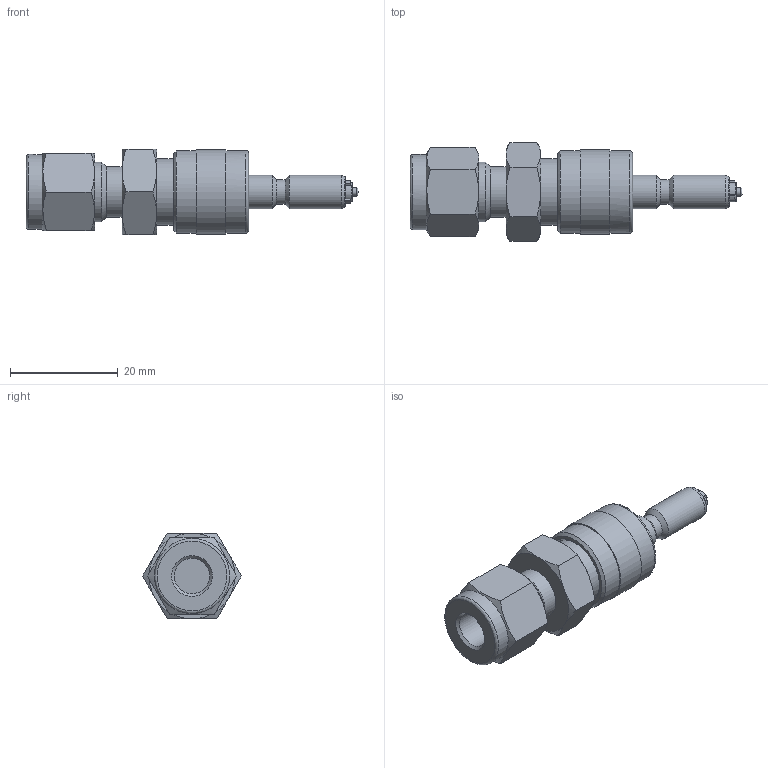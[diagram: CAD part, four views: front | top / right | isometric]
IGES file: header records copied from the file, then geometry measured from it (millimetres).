
Global section: file name: SQC1P-S4-D0; native system: Autodesk Inventor 2016; preprocessor: unknown; author: 이승민,,11,0; organization: 20170206.121947; date: 20170209.081447; units: millimetre
Bounding box: 61.5 x 18.33 x 15.9 mm (x, y, z)
Volume: 6586.5 mm3; surface area: 3745 mm2
Topology: 1 solids, 1 shells, 103 faces, 275 edges, 188 vertices
Faces by surface type: bspline 103
